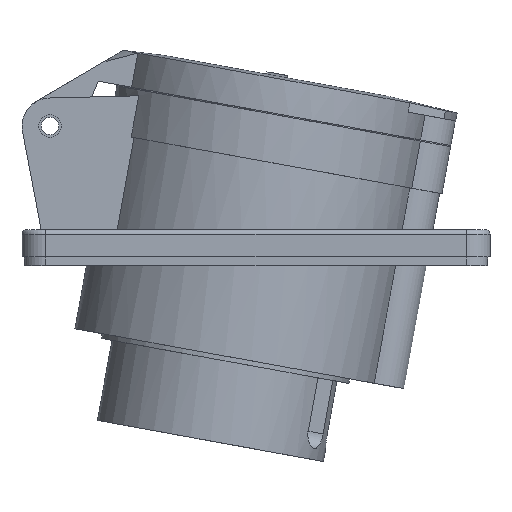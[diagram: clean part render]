
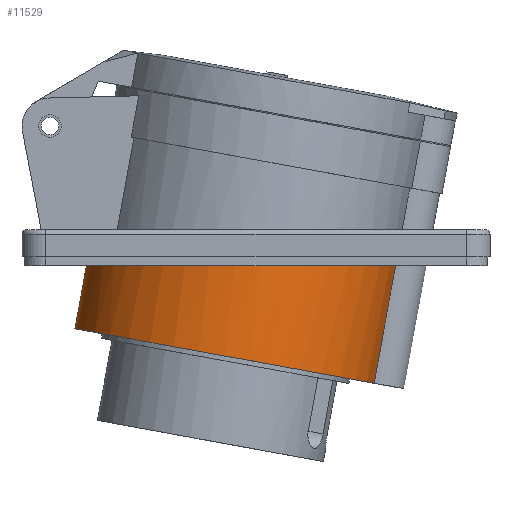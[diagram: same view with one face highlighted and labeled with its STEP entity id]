
A CAD part, left-side view. The second image highlights one B-rep face of the part: STEP entity #11529.
In plain terms, the highlighted cylindrical face has radius 32.05 mm (diameter 64.1 mm), a partial arc.
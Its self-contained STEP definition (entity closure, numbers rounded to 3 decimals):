
#590 = CARTESIAN_POINT ( 'NONE',  ( 0., -1.143, 20.077 ) ) ;
#591 = DIRECTION ( 'NONE',  ( 0., 0.179, -0.984 ) ) ;
#592 = DIRECTION ( 'NONE',  ( 0., 0.984, 0.179 ) ) ;
#2175 = EDGE_CURVE ( 'NONE', #2696, #2687, #3802, .T. ) ;
#2359 = EDGE_CURVE ( 'NONE', #2696, #2697, #7138, .T. ) ;
#2376 = EDGE_CURVE ( 'NONE', #2687, #2691, #11676, .T. ) ;
#2393 = EDGE_CURVE ( 'NONE', #2697, #2691, #10411, .T. ) ;
#2687 = VERTEX_POINT ( 'NONE', #10715 ) ;
#2691 = VERTEX_POINT ( 'NONE', #10719 ) ;
#2696 = VERTEX_POINT ( 'NONE', #10724 ) ;
#2697 = VERTEX_POINT ( 'NONE', #10725 ) ;
#3022 = EDGE_LOOP ( 'NONE', ( #7377, #7408, #7375, #7753 ) ) ;
#3802 = LINE ( 'NONE', #3803, #7118 ) ;
#3803 = CARTESIAN_POINT ( 'NONE',  ( -5.9, -32.134, 14.425 ) ) ;
#3804 = DIRECTION ( 'NONE',  ( 0., 0.179, -0.984 ) ) ;
#6056 = VECTOR ( 'NONE', #10413, 1000. ) ;
#6129 = AXIS2_PLACEMENT_3D ( 'NONE', #10328, #10335, #10336 ) ;
#6766 = FACE_OUTER_BOUND ( 'NONE', #3022, .T. ) ;
#6770 = AXIS2_PLACEMENT_3D ( 'NONE', #590, #591, #592 ) ;
#6771 = CYLINDRICAL_SURFACE ( 'NONE', #6770, 32.05 ) ;
#7118 = VECTOR ( 'NONE', #3804, 1000. ) ;
#7138 =( BOUNDED_CURVE ( )  B_SPLINE_CURVE ( 3, ( #10244, #10245, #10246, #10247 ),
 .UNSPECIFIED., .F., .T. ) 
 B_SPLINE_CURVE_WITH_KNOTS ( ( 4, 4 ),
 ( 3.327, 6.283 ),
 .UNSPECIFIED. ) 
 CURVE ( )  GEOMETRIC_REPRESENTATION_ITEM ( )  RATIONAL_B_SPLINE_CURVE ( ( 1., 0.395, 0.395, 1. ) ) 
 REPRESENTATION_ITEM ( '' )  );
#7375 = ORIENTED_EDGE ( 'NONE', *, *, #2376, .F. ) ;
#7377 = ORIENTED_EDGE ( 'NONE', *, *, #2359, .T. ) ;
#7408 = ORIENTED_EDGE ( 'NONE', *, *, #2393, .T. ) ;
#7753 = ORIENTED_EDGE ( 'NONE', *, *, #2175, .F. ) ;
#10244 = CARTESIAN_POINT ( 'NONE',  ( -5.9, -29.166, -1.85 ) ) ;
#10245 = CARTESIAN_POINT ( 'NONE',  ( -58.846, -19.087, -1.85 ) ) ;
#10246 = CARTESIAN_POINT ( 'NONE',  ( -53.867, 35.434, -1.85 ) ) ;
#10247 = CARTESIAN_POINT ( 'NONE',  ( 0., 35.434, -1.85 ) ) ;
#10328 = CARTESIAN_POINT ( 'NONE',  ( 0., 6.302, -20.75 ) ) ;
#10335 = DIRECTION ( 'NONE',  ( 0., 0.179, -0.984 ) ) ;
#10336 = DIRECTION ( 'NONE',  ( 0., 0.984, 0.179 ) ) ;
#10411 = LINE ( 'NONE', #10412, #6056 ) ;
#10412 = CARTESIAN_POINT ( 'NONE',  ( 0., 30.387, 25.827 ) ) ;
#10413 = DIRECTION ( 'NONE',  ( 0., 0.179, -0.984 ) ) ;
#10715 = CARTESIAN_POINT ( 'NONE',  ( -5.9, -24.689, -26.402 ) ) ;
#10719 = CARTESIAN_POINT ( 'NONE',  ( 0., 37.832, -15. ) ) ;
#10724 = CARTESIAN_POINT ( 'NONE',  ( -5.9, -29.166, -1.85 ) ) ;
#10725 = CARTESIAN_POINT ( 'NONE',  ( 0., 35.434, -1.85 ) ) ;
#11529 = ADVANCED_FACE ( 'NONE', ( #6766 ), #6771, .T. ) ;
#11676 = CIRCLE ( 'NONE', #6129, 32.05 ) ;
